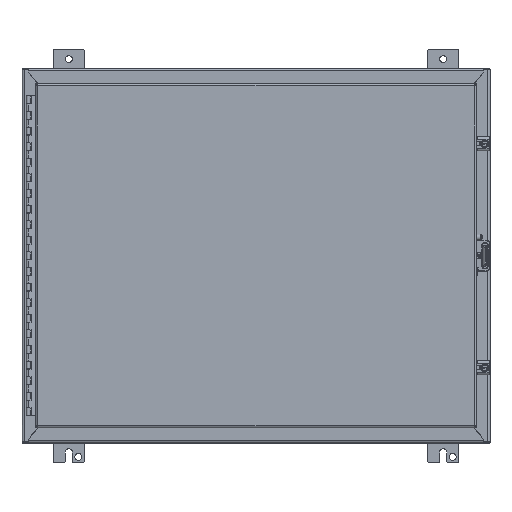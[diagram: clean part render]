
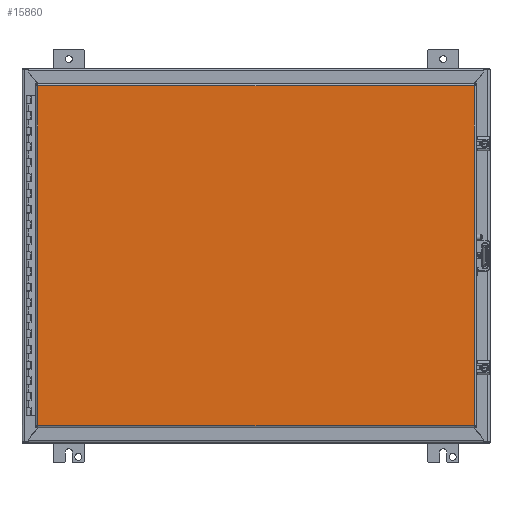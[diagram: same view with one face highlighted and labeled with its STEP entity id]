
A CAD part, top view. The second image highlights one B-rep face of the part: STEP entity #15860.
In plain terms, the highlighted planar face has unit normal (0, 0, 1) as drawn and (0, 1, 0) by its records, which use the part's own axes.
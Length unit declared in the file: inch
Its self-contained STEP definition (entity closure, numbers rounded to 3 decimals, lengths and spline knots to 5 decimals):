
#14389=DIRECTION('',(0.,0.,1.));
#14390=VECTOR('',#14389,27.96);
#14391=CARTESIAN_POINT('',(-10.88638,0.,0.145));
#14392=LINE('',#14391,#14390);
#14441=DIRECTION('',(0.,0.,1.));
#14442=VECTOR('',#14441,27.96);
#14443=CARTESIAN_POINT('',(10.88638,0.,0.145));
#14444=LINE('',#14443,#14442);
#14547=DIRECTION('',(-1.,0.,0.));
#14548=VECTOR('',#14547,21.77275);
#14549=CARTESIAN_POINT('',(10.88638,0.,0.145));
#14550=LINE('',#14549,#14548);
#15047=DIRECTION('',(-1.,0.,0.));
#15048=VECTOR('',#15047,21.77275);
#15049=CARTESIAN_POINT('',(10.88638,0.,28.105));
#15050=LINE('',#15049,#15048);
#15275=CARTESIAN_POINT('',(10.88638,0.,0.145));
#15276=CARTESIAN_POINT('',(-10.88638,0.,0.145));
#15277=VERTEX_POINT('',#15275);
#15278=VERTEX_POINT('',#15276);
#15279=CARTESIAN_POINT('',(10.88638,0.,28.105));
#15280=CARTESIAN_POINT('',(-10.88638,0.,28.105));
#15281=VERTEX_POINT('',#15279);
#15282=VERTEX_POINT('',#15280);
#15846=CARTESIAN_POINT('',(11.03138,0.,0.));
#15847=DIRECTION('',(0.,1.,0.));
#15848=DIRECTION('',(-1.,0.,0.));
#15849=AXIS2_PLACEMENT_3D('',#15846,#15847,#15848);
#15850=PLANE('',#15849);
#15852=ORIENTED_EDGE('',*,*,#15851,.T.);
#15854=ORIENTED_EDGE('',*,*,#15853,.T.);
#15855=ORIENTED_EDGE('',*,*,#15836,.F.);
#15857=ORIENTED_EDGE('',*,*,#15856,.F.);
#15858=EDGE_LOOP('',(#15852,#15854,#15855,#15857));
#15859=FACE_OUTER_BOUND('',#15858,.F.);
#15836=EDGE_CURVE('',#15278,#15282,#14392,.T.);
#15851=EDGE_CURVE('',#15277,#15281,#14444,.T.);
#15853=EDGE_CURVE('',#15281,#15282,#15050,.T.);
#15856=EDGE_CURVE('',#15277,#15278,#14550,.T.);
#15860=ADVANCED_FACE('',(#15859),#15850,.T.);
